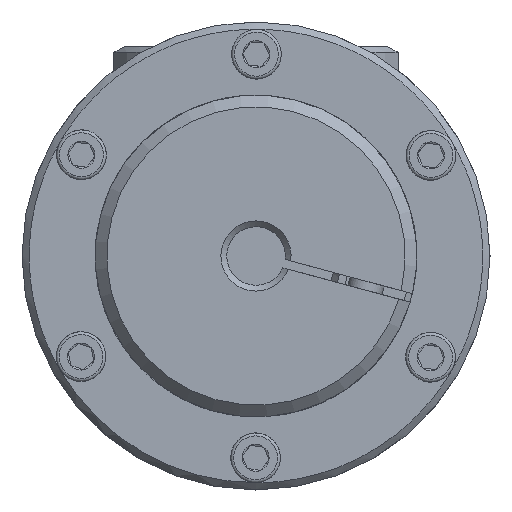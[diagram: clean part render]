
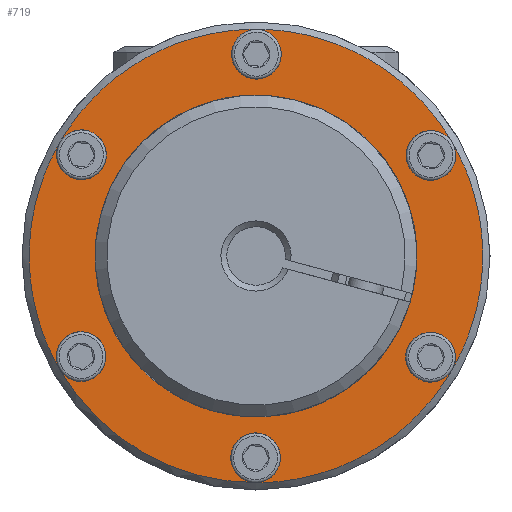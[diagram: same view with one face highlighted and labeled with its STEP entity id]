
A CAD part, left-side view. The second image highlights one B-rep face of the part: STEP entity #719.
In plain terms, the highlighted planar face has unit normal (-1, 0, 0).
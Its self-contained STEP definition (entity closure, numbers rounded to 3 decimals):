
#719 = ADVANCED_FACE( '', ( #1382, #1383 ), #1384, .F. );
#1382 = FACE_OUTER_BOUND( '', #2436, .T. );
#1383 = FACE_BOUND( '', #2437, .T. );
#1384 = PLANE( '', #2438 );
#2436 = EDGE_LOOP( '', ( #3693, #3694, #3695, #3696, #3697, #3698, #3699, #3700, #3701, #3702, #3703, #3704 ) );
#2437 = EDGE_LOOP( '', ( #3705 ) );
#2438 = AXIS2_PLACEMENT_3D( '', #3706, #3707, #3708 );
#3693 = ORIENTED_EDGE( '', *, *, #6345, .T. );
#3694 = ORIENTED_EDGE( '', *, *, #6338, .T. );
#3695 = ORIENTED_EDGE( '', *, *, #6346, .T. );
#3696 = ORIENTED_EDGE( '', *, *, #6337, .T. );
#3697 = ORIENTED_EDGE( '', *, *, #6343, .T. );
#3698 = ORIENTED_EDGE( '', *, *, #6342, .T. );
#3699 = ORIENTED_EDGE( '', *, *, #6347, .T. );
#3700 = ORIENTED_EDGE( '', *, *, #6341, .T. );
#3701 = ORIENTED_EDGE( '', *, *, #6348, .T. );
#3702 = ORIENTED_EDGE( '', *, *, #6340, .T. );
#3703 = ORIENTED_EDGE( '', *, *, #6349, .T. );
#3704 = ORIENTED_EDGE( '', *, *, #6339, .T. );
#3705 = ORIENTED_EDGE( '', *, *, #6350, .F. );
#3706 = CARTESIAN_POINT( '', ( -13.499, 40., 0. ) );
#3707 = DIRECTION( '', ( 1., 0., 0. ) );
#3708 = DIRECTION( '', ( 0., 1., 0. ) );
#6337 = EDGE_CURVE( '', #7271, #7272, #7273, .F. );
#6338 = EDGE_CURVE( '', #7274, #7271, #7275, .F. );
#6339 = EDGE_CURVE( '', #7276, #7274, #7277, .F. );
#6340 = EDGE_CURVE( '', #7278, #7276, #7279, .F. );
#6341 = EDGE_CURVE( '', #7280, #7278, #7281, .F. );
#6342 = EDGE_CURVE( '', #7272, #7280, #7282, .F. );
#6343 = EDGE_CURVE( '', #7272, #7272, #7283, .T. );
#6345 = EDGE_CURVE( '', #7274, #7274, #7286, .T. );
#6346 = EDGE_CURVE( '', #7271, #7271, #7287, .T. );
#6347 = EDGE_CURVE( '', #7280, #7280, #7288, .T. );
#6348 = EDGE_CURVE( '', #7278, #7278, #7289, .T. );
#6349 = EDGE_CURVE( '', #7276, #7276, #7290, .T. );
#6350 = EDGE_CURVE( '', #7291, #7291, #7292, .F. );
#7271 = VERTEX_POINT( '', #8928 );
#7272 = VERTEX_POINT( '', #8929 );
#7273 = CIRCLE( '', #8930, 38.75 );
#7274 = VERTEX_POINT( '', #8931 );
#7275 = CIRCLE( '', #8932, 38.75 );
#7276 = VERTEX_POINT( '', #8933 );
#7277 = CIRCLE( '', #8934, 38.75 );
#7278 = VERTEX_POINT( '', #8935 );
#7279 = CIRCLE( '', #8936, 38.75 );
#7280 = VERTEX_POINT( '', #8937 );
#7281 = CIRCLE( '', #8938, 38.75 );
#7282 = CIRCLE( '', #8939, 38.75 );
#7283 = CIRCLE( '', #8940, 4.25 );
#7286 = CIRCLE( '', #8943, 4.25 );
#7287 = CIRCLE( '', #8944, 4.25 );
#7288 = CIRCLE( '', #8945, 4.25 );
#7289 = CIRCLE( '', #8946, 4.25 );
#7290 = CIRCLE( '', #8947, 4.25 );
#7291 = VERTEX_POINT( '', #8948 );
#7292 = CIRCLE( '', #8949, 27.5 );
#8928 = CARTESIAN_POINT( '', ( -13.499, 33.558, 19.375 ) );
#8929 = CARTESIAN_POINT( '', ( -13.499, 33.558, -19.375 ) );
#8930 = AXIS2_PLACEMENT_3D( '', #11403, #11404, #11405 );
#8931 = CARTESIAN_POINT( '', ( -13.499, 0., 38.75 ) );
#8932 = AXIS2_PLACEMENT_3D( '', #11406, #11407, #11408 );
#8933 = CARTESIAN_POINT( '', ( -13.499, -33.558, 19.375 ) );
#8934 = AXIS2_PLACEMENT_3D( '', #11409, #11410, #11411 );
#8935 = CARTESIAN_POINT( '', ( -13.499, -33.558, -19.375 ) );
#8936 = AXIS2_PLACEMENT_3D( '', #11412, #11413, #11414 );
#8937 = CARTESIAN_POINT( '', ( -13.499, 0., -38.75 ) );
#8938 = AXIS2_PLACEMENT_3D( '', #11415, #11416, #11417 );
#8939 = AXIS2_PLACEMENT_3D( '', #11418, #11419, #11420 );
#8940 = AXIS2_PLACEMENT_3D( '', #11421, #11422, #11423 );
#8943 = AXIS2_PLACEMENT_3D( '', #11427, #11428, #11429 );
#8944 = AXIS2_PLACEMENT_3D( '', #11430, #11431, #11432 );
#8945 = AXIS2_PLACEMENT_3D( '', #11433, #11434, #11435 );
#8946 = AXIS2_PLACEMENT_3D( '', #11436, #11437, #11438 );
#8947 = AXIS2_PLACEMENT_3D( '', #11439, #11440, #11441 );
#8948 = CARTESIAN_POINT( '', ( -13.499, 0., -27.5 ) );
#8949 = AXIS2_PLACEMENT_3D( '', #11442, #11443, #11444 );
#11403 = CARTESIAN_POINT( '', ( -13.499, 0., 0. ) );
#11404 = DIRECTION( '', ( 1., 0., 0. ) );
#11405 = DIRECTION( '', ( 0., 0., -1. ) );
#11406 = CARTESIAN_POINT( '', ( -13.499, 0., 0. ) );
#11407 = DIRECTION( '', ( 1., 0., 0. ) );
#11408 = DIRECTION( '', ( 0., 0., -1. ) );
#11409 = CARTESIAN_POINT( '', ( -13.499, 0., 0. ) );
#11410 = DIRECTION( '', ( 1., 0., 0. ) );
#11411 = DIRECTION( '', ( 0., 0., -1. ) );
#11412 = CARTESIAN_POINT( '', ( -13.499, 0., 0. ) );
#11413 = DIRECTION( '', ( 1., 0., 0. ) );
#11414 = DIRECTION( '', ( 0., 0., -1. ) );
#11415 = CARTESIAN_POINT( '', ( -13.499, 0., 0. ) );
#11416 = DIRECTION( '', ( 1., 0., 0. ) );
#11417 = DIRECTION( '', ( 0., 0., -1. ) );
#11418 = CARTESIAN_POINT( '', ( -13.499, 0., 0. ) );
#11419 = DIRECTION( '', ( 1., 0., 0. ) );
#11420 = DIRECTION( '', ( 0., 0., -1. ) );
#11421 = CARTESIAN_POINT( '', ( -13.499, 29.878, -17.25 ) );
#11422 = DIRECTION( '', ( 1., 0., 0. ) );
#11423 = DIRECTION( '', ( 0., 0., -1. ) );
#11427 = CARTESIAN_POINT( '', ( -13.499, 0., 34.5 ) );
#11428 = DIRECTION( '', ( 1., 0., 0. ) );
#11429 = DIRECTION( '', ( 0., 0., -1. ) );
#11430 = CARTESIAN_POINT( '', ( -13.499, 29.878, 17.25 ) );
#11431 = DIRECTION( '', ( 1., 0., 0. ) );
#11432 = DIRECTION( '', ( 0., 0., -1. ) );
#11433 = CARTESIAN_POINT( '', ( -13.499, 0., -34.5 ) );
#11434 = DIRECTION( '', ( 1., 0., 0. ) );
#11435 = DIRECTION( '', ( 0., 0., -1. ) );
#11436 = CARTESIAN_POINT( '', ( -13.499, -29.878, -17.25 ) );
#11437 = DIRECTION( '', ( 1., 0., 0. ) );
#11438 = DIRECTION( '', ( 0., 0., -1. ) );
#11439 = CARTESIAN_POINT( '', ( -13.499, -29.878, 17.25 ) );
#11440 = DIRECTION( '', ( 1., 0., 0. ) );
#11441 = DIRECTION( '', ( 0., 0., -1. ) );
#11442 = CARTESIAN_POINT( '', ( -13.499, 0., 0. ) );
#11443 = DIRECTION( '', ( 1., 0., 0. ) );
#11444 = DIRECTION( '', ( 0., 0., -1. ) );
